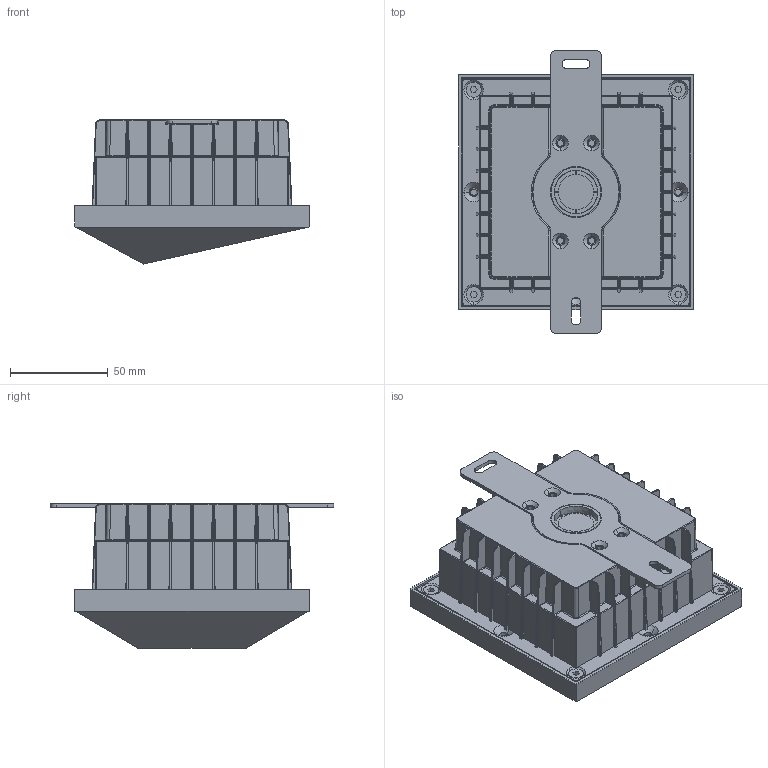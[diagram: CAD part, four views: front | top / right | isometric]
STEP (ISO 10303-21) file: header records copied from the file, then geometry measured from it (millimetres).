
FILE_DESCRIPTION((''),'2;1');
FILE_NAME('120-FBD_ASM_89_ASM','2021-11-29T',('Administrator'),(''),'PRO/ENGINEER BY PARAMETRIC TECHNOLOGY CORPORATION, 2010480','PRO/ENGINEER BY PARAMETRIC TECHNOLOGY CORPORATION, 2010480','');
FILE_SCHEMA(('CONFIG_CONTROL_DESIGN'));
Products named in the file (21): 1CV_; 7SQW18_FL2_15_6; 120-YMT_ASM_10_ASM; 7CV; 7SQW18_KAHUANG_21_9; 120-FSQ_5; SCREW-M12_1_19; XINGUIJIAO_15; GUIJIAOSAI-005_9; LUOMUZUJIAN_ASM_15_ASM; M14_ASM; M4-8; M3-L6; 120-DT_ASM_11_ASM; 7SQW318-22228-1_6_15; 7SQW318_P_18_9; MG1-SRB_2; MG1-LJB_3; PCB-29; 1CN_ASM; 120-FBD_ASM_89_ASM
Assembly tree (29 placements, depth 5):
  120-FBD_ASM_89_ASM
    120-YMT_ASM_10_ASM
      1CV_
      7SQW18_FL2_15_6
    120-DT_ASM_11_ASM
      7CV
      7SQW18_KAHUANG_21_9  x4
      120-FSQ_5
      M14_ASM
        LUOMUZUJIAN_ASM_15_ASM
          SCREW-M12_1_19
          XINGUIJIAO_15
          GUIJIAOSAI-005_9
      M4-8  x4
      M3-L6  x4
    1CN_ASM
      7SQW318-22228-1_6_15
      7SQW318_P_18_9
      MG1-SRB_2
      MG1-LJB_3
      PCB-29
Bounding box: 120.04 x 145 x 73.71 mm (x, y, z)
Volume: 227495.3 mm3; surface area: 215912.7 mm2
Topology: 24 solids, 24 shells, 2750 faces, 6912 edges, 4269 vertices
Faces by surface type: cylinder 1051, plane 930, bspline 444, cone 164, torus 111, sphere 50
Entity records: 92787 total; most frequent: CARTESIAN_POINT 39109, ORIENTED_EDGE 11580, DIRECTION 10471, EDGE_CURVE 5790, AXIS2_PLACEMENT_3D 3778, VERTEX_POINT 3561, VECTOR 2915, LINE 2915
